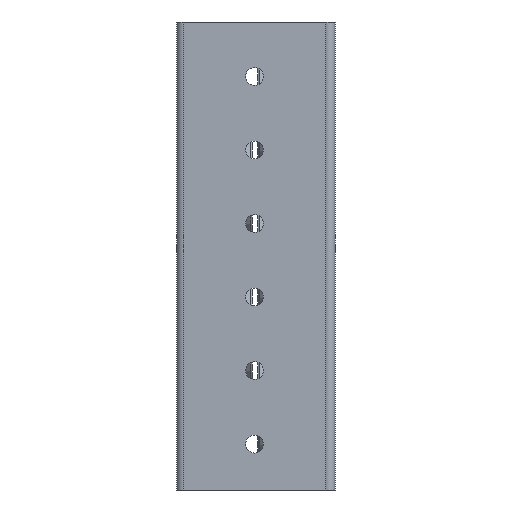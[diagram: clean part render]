
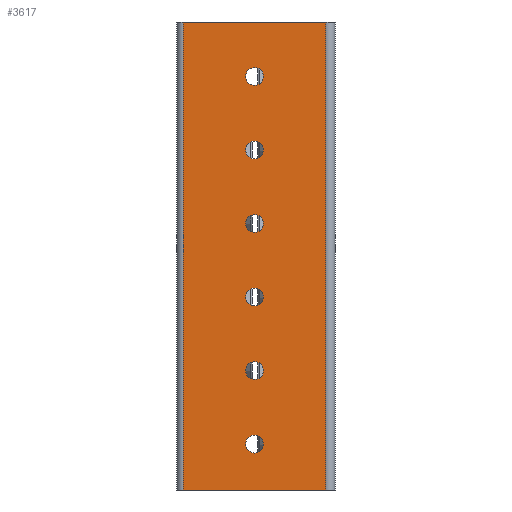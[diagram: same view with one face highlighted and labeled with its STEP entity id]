
A CAD part, front view. The second image highlights one B-rep face of the part: STEP entity #3617.
In plain terms, the highlighted planar face has unit normal (0, -1, 0).
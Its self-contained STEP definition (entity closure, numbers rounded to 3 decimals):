
#149=PLANE('',#3924);
#261=CIRCLE('',#3925,2.);
#262=CIRCLE('',#3926,2.);
#263=CIRCLE('',#3927,2.);
#264=CIRCLE('',#3928,2.);
#265=CIRCLE('',#3929,2.);
#266=CIRCLE('',#3930,2.);
#494=LINE('',#6205,#757);
#527=LINE('',#6306,#790);
#528=LINE('',#6322,#791);
#529=LINE('',#6324,#792);
#757=VECTOR('',#4525,1000.);
#790=VECTOR('',#4622,1000.);
#791=VECTOR('',#4639,1000.);
#792=VECTOR('',#4640,1000.);
#1308=ORIENTED_EDGE('',*,*,#2313,.T.);
#1309=ORIENTED_EDGE('',*,*,#2314,.T.);
#1310=ORIENTED_EDGE('',*,*,#2315,.T.);
#1311=ORIENTED_EDGE('',*,*,#2316,.T.);
#1312=ORIENTED_EDGE('',*,*,#2317,.T.);
#1313=ORIENTED_EDGE('',*,*,#2318,.T.);
#1314=ORIENTED_EDGE('',*,*,#2255,.T.);
#1315=ORIENTED_EDGE('',*,*,#2319,.F.);
#1316=ORIENTED_EDGE('',*,*,#2320,.F.);
#1317=ORIENTED_EDGE('',*,*,#2311,.T.);
#2255=EDGE_CURVE('',#2746,#2745,#494,.T.);
#2311=EDGE_CURVE('',#2782,#2746,#527,.T.);
#2313=EDGE_CURVE('',#2783,#2783,#261,.T.);
#2314=EDGE_CURVE('',#2784,#2784,#262,.T.);
#2315=EDGE_CURVE('',#2785,#2785,#263,.T.);
#2316=EDGE_CURVE('',#2786,#2786,#264,.T.);
#2317=EDGE_CURVE('',#2787,#2787,#265,.T.);
#2318=EDGE_CURVE('',#2788,#2788,#266,.T.);
#2319=EDGE_CURVE('',#2789,#2745,#528,.T.);
#2320=EDGE_CURVE('',#2782,#2789,#529,.T.);
#2745=VERTEX_POINT('',#6204);
#2746=VERTEX_POINT('',#6206);
#2782=VERTEX_POINT('',#6307);
#2783=VERTEX_POINT('',#6311);
#2784=VERTEX_POINT('',#6313);
#2785=VERTEX_POINT('',#6315);
#2786=VERTEX_POINT('',#6317);
#2787=VERTEX_POINT('',#6319);
#2788=VERTEX_POINT('',#6321);
#2789=VERTEX_POINT('',#6323);
#3059=EDGE_LOOP('',(#1308));
#3060=EDGE_LOOP('',(#1309));
#3061=EDGE_LOOP('',(#1310));
#3062=EDGE_LOOP('',(#1311));
#3063=EDGE_LOOP('',(#1312));
#3064=EDGE_LOOP('',(#1313));
#3065=EDGE_LOOP('',(#1314,#1315,#1316,#1317));
#3299=FACE_BOUND('',#3059,.T.);
#3300=FACE_BOUND('',#3060,.T.);
#3301=FACE_BOUND('',#3061,.T.);
#3302=FACE_BOUND('',#3062,.T.);
#3303=FACE_BOUND('',#3063,.T.);
#3304=FACE_BOUND('',#3064,.T.);
#3305=FACE_BOUND('',#3065,.T.);
#3617=ADVANCED_FACE('',(#3299,#3300,#3301,#3302,#3303,#3304,#3305),#149,
 .F.);
#3924=AXIS2_PLACEMENT_3D('',#6309,#4625,#4626);
#3925=AXIS2_PLACEMENT_3D('',#6310,#4627,#4628);
#3926=AXIS2_PLACEMENT_3D('',#6312,#4629,#4630);
#3927=AXIS2_PLACEMENT_3D('',#6314,#4631,#4632);
#3928=AXIS2_PLACEMENT_3D('',#6316,#4633,#4634);
#3929=AXIS2_PLACEMENT_3D('',#6318,#4635,#4636);
#3930=AXIS2_PLACEMENT_3D('',#6320,#4637,#4638);
#4525=DIRECTION('',(0.,0.,-1.));
#4622=DIRECTION('',(-1.,0.,0.));
#4625=DIRECTION('',(0.,1.,0.));
#4626=DIRECTION('',(0.,0.,1.));
#4627=DIRECTION('',(0.,1.,0.));
#4628=DIRECTION('',(1.,0.,0.));
#4629=DIRECTION('',(0.,1.,0.));
#4630=DIRECTION('',(1.,0.,0.));
#4631=DIRECTION('',(0.,1.,0.));
#4632=DIRECTION('',(1.,0.,0.));
#4633=DIRECTION('',(0.,1.,0.));
#4634=DIRECTION('',(1.,0.,0.));
#4635=DIRECTION('',(0.,1.,0.));
#4636=DIRECTION('',(1.,0.,0.));
#4637=DIRECTION('',(0.,1.,0.));
#4638=DIRECTION('',(1.,0.,0.));
#4639=DIRECTION('',(-1.,0.,0.));
#4640=DIRECTION('',(0.,0.,-1.));
#6204=CARTESIAN_POINT('',(0.,0.,-15.988));
#6205=CARTESIAN_POINT('',(0.,0.,16.));
#6206=CARTESIAN_POINT('',(0.,0.,16.));
#6306=CARTESIAN_POINT('',(105.,0.,16.));
#6307=CARTESIAN_POINT('',(105.,0.,16.));
#6309=CARTESIAN_POINT('',(105.,0.,16.));
#6310=CARTESIAN_POINT('',(26.8,0.,0.));
#6311=CARTESIAN_POINT('',(28.8,0.,0.));
#6312=CARTESIAN_POINT('',(43.3,0.,0.));
#6313=CARTESIAN_POINT('',(45.3,0.,0.));
#6314=CARTESIAN_POINT('',(59.8,0.,0.));
#6315=CARTESIAN_POINT('',(61.8,0.,0.));
#6316=CARTESIAN_POINT('',(76.3,0.,0.));
#6317=CARTESIAN_POINT('',(78.3,0.,0.));
#6318=CARTESIAN_POINT('',(92.8,0.,0.));
#6319=CARTESIAN_POINT('',(94.8,0.,0.));
#6320=CARTESIAN_POINT('',(10.3,0.,0.));
#6321=CARTESIAN_POINT('',(12.3,0.,0.));
#6322=CARTESIAN_POINT('',(105.,0.,-15.988));
#6323=CARTESIAN_POINT('',(105.,0.,-15.988));
#6324=CARTESIAN_POINT('',(105.,0.,16.));
